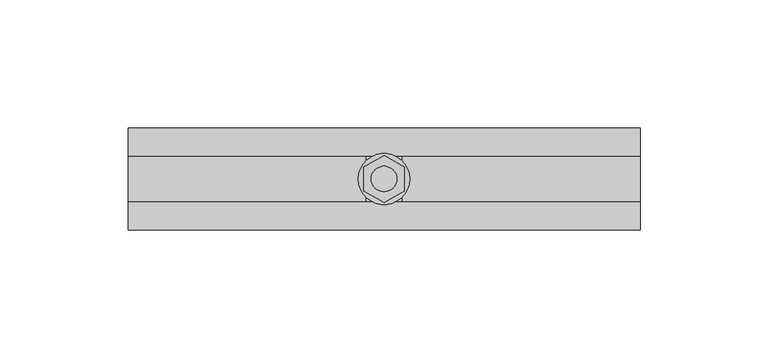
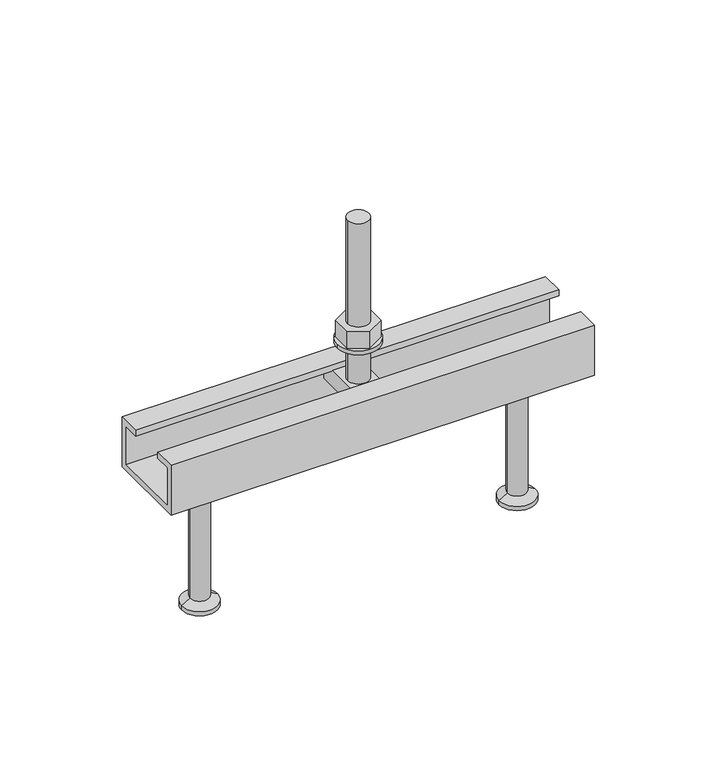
"""IFC4 building model written with IfcOpenShell, lengths in millimetres: fastener geometry, JTA-K JORDAHL® AnchorChannels : JTA-K L=200 mm."""

from ifc_helpers import new_model, si_unit, point, frame, frame_2d, origin, place, context, project, spatial, polyline, circle_curve, trimmed, segment, composite_curve, outline, extrude, source, transform, mapped, element, save
from ifc_brep_helpers import plane_surface, cylinder_surface, revolved_surface, advanced_brep


def fastener_1dbd13a3(model_context):
    return source(origin(), model_context, "Body", "SolidModel", [
        extrude(outline(polyline([(100.0, -9.2376043), (92.0, -4.6188022), (92.0, 4.6188022), (100.0, 9.2376043), (108.0, 4.6188022), (108.0, -4.6188022), (100.0, -9.2376043)]), holes=[composite_curve([segment(trimmed(circle_curve(frame_2d((100.0, 0.0)), 5.0), [point((95.0, 0.0))], [point((105.0, 0.0))], True, "CARTESIAN"), True, "CONTINUOUS"), segment(trimmed(circle_curve(frame_2d((100.0, 0.0)), 5.0), [point((105.0, 0.0))], [point((95.0, 0.0))], True, "CARTESIAN"), True, "CONTINUOUS")], self_intersect=False)]), frame((0.0, 0.0, 17.0), z_axis=(0.0, 0.0, 1.0), x_axis=(1.0, 0.0, 0.0)), (0.0, 0.0, 1.0), 8.4),
        extrude(outline(composite_curve([segment(trimmed(circle_curve(frame_2d((100.0, 0.0)), 10.0), [point((90.0, 0.0))], [point((110.0, 0.0))], False, "CARTESIAN"), True, "CONTINUOUS"), segment(trimmed(circle_curve(frame_2d((100.0, 0.0)), 10.0), [point((110.0, 0.0))], [point((90.0, 0.0))], False, "CARTESIAN"), True, "CONTINUOUS")], self_intersect=False), holes=[composite_curve([segment(trimmed(circle_curve(frame_2d((100.0, 0.0)), 5.25), [point((94.75, 0.0))], [point((105.25, 0.0))], True, "CARTESIAN"), True, "CONTINUOUS"), segment(trimmed(circle_curve(frame_2d((100.0, 0.0)), 5.25), [point((105.25, 0.0))], [point((94.75, 0.0))], True, "CARTESIAN"), True, "CONTINUOUS")], self_intersect=False)]), frame((0.0, 0.0, 15.0), z_axis=(0.0, 0.0, 1.0), x_axis=(1.0, 0.0, 0.0)), (0.0, 0.0, 1.0), 2.0),
        advanced_brep(
        [(107.0, -16.0, -3.0), (107.0, -16.0, -11.0), (107.0, 16.0, -11.0), (107.0, 16.0, -3.0), (93.0, -16.0, -3.0), (93.0, 16.0, -3.0), (93.0, 16.0, -11.0), (93.0, -16.0, -11.0), (105.0, 0.0, -3.0), (95.0, 0.0, -3.0), (95.0, 0.0, 77.0), (105.0, 0.0, 77.0)],
        [
            (0, 1),
            (1, 2),
            (2, 3),
            (3, 0),
            (4, 5),
            (5, 6),
            (6, 7),
            (7, 4),
            (3, 5),
            (4, 0),
            (8, 9, circle_curve(frame((100.0, 0.0, -3.0), z_axis=(0.0, 0.0, -1.0), x_axis=(1.0, 0.0, 0.0)), 5.0)),
            (9, 8, circle_curve(frame((100.0, 0.0, -3.0), z_axis=(0.0, 0.0, -1.0), x_axis=(1.0, 0.0, 0.0)), 5.0)),
            (2, 6),
            (1, 7),
            (10, 11, circle_curve(frame((100.0, 0.0, 77.0), z_axis=(0.0, 0.0, 1.0), x_axis=(1.0, 0.0, 0.0)), 5.0)),
            (11, 10, circle_curve(frame((100.0, 0.0, 77.0), z_axis=(0.0, 0.0, 1.0), x_axis=(1.0, 0.0, 0.0)), 5.0)),
            (11, 8),
            (9, 10),
        ],
        [
            plane_surface(frame((107.0, 16.0, -3.0), z_axis=(1.0, 0.0, 0.0), x_axis=(0.0, 1.0, 0.0))),
            plane_surface(frame((93.0, 16.0, -3.0), z_axis=(-1.0, 0.0, 0.0), x_axis=(0.0, -1.0, 0.0))),
            plane_surface(frame((107.0, -16.0, -3.0), z_axis=(0.0, 0.0, 1.0), x_axis=(-1.0, 0.0, 0.0))),
            plane_surface(frame((107.0, 16.0, -3.0), z_axis=(0.0, 1.0, 0.0), x_axis=(-1.0, 0.0, 0.0))),
            plane_surface(frame((107.0, 16.0, -11.0), z_axis=(0.0, 0.0, -1.0), x_axis=(-1.0, 0.0, 0.0))),
            plane_surface(frame((107.0, -16.0, -11.0), z_axis=(0.0, -1.0, 0.0), x_axis=(-1.0, 0.0, 0.0))),
            plane_surface(frame((105.0, 0.0, 77.0), z_axis=(0.0, 0.0, 1.0), x_axis=(0.0, -1.0, 0.0))),
            cylinder_surface(frame((100.0, 0.0, -3.0), z_axis=(0.0, 0.0, 1.0), x_axis=(1.0, 0.0, 0.0)), 5.0),
        ],
        [
            (0, [[1, 2, 3, 4]]),
            (1, [[5, 6, 7, 8]]),
            (2, [[9, -5, 10, -4], [11, 12]]),
            (3, [[13, -6, -9, -3]]),
            (4, [[14, -7, -13, -2]]),
            (5, [[-10, -8, -14, -1]]),
            (6, [[15, 16]]),
            (7, [[17, -12, 18, -16]]),
            (7, [[-18, -11, -17, -15]]),
        ],
    ),
        advanced_brep(
        [(175.0, 0.0, -25.0), (161.5, 0.0, -25.0), (188.5, 0.0, -25.0), (166.5, 0.0, -90.0), (175.0, 0.0, -90.0), (183.5, 0.0, -90.0), (166.5, 0.0, -88.0), (183.5, 0.0, -88.0), (170.5, 0.0, -85.6905989), (179.5, 0.0, -85.6905989), (170.5, 0.0, -27.5), (179.5, 0.0, -27.5)],
        [
            (0, 1),
            (1, 2, circle_curve(frame((175.0, 0.0, -25.0), z_axis=(0.0, 0.0, 1.0), x_axis=(1.0, 0.0, 0.0)), 13.5)),
            (2, 0),
            (2, 1, circle_curve(frame((175.0, 0.0, -25.0), z_axis=(0.0, 0.0, 1.0), x_axis=(1.0, 0.0, 0.0)), 13.5)),
            (3, 4),
            (4, 5),
            (5, 3, circle_curve(frame((175.0, 0.0, -90.0), z_axis=(0.0, 0.0, -1.0), x_axis=(1.0, 0.0, 0.0)), 8.5)),
            (3, 5, circle_curve(frame((175.0, 0.0, -90.0), z_axis=(0.0, 0.0, -1.0), x_axis=(1.0, 0.0, 0.0)), 8.5)),
            (6, 3),
            (5, 7),
            (7, 6, circle_curve(frame((175.0, 0.0, -88.0), z_axis=(0.0, 0.0, -1.0), x_axis=(1.0, 0.0, 0.0)), 8.5)),
            (6, 7, circle_curve(frame((175.0, 0.0, -88.0), z_axis=(0.0, 0.0, -1.0), x_axis=(1.0, 0.0, 0.0)), 8.5)),
            (8, 6),
            (7, 9),
            (9, 8, circle_curve(frame((175.0, 0.0, -85.6905989), z_axis=(0.0, 0.0, -1.0), x_axis=(1.0, 0.0, 0.0)), 4.5)),
            (8, 9, circle_curve(frame((175.0, 0.0, -85.6905989), z_axis=(0.0, 0.0, -1.0), x_axis=(1.0, 0.0, 0.0)), 4.5)),
            (10, 8),
            (9, 11),
            (11, 10, circle_curve(frame((175.0, 0.0, -27.5), z_axis=(0.0, 0.0, -1.0), x_axis=(1.0, 0.0, 0.0)), 4.5)),
            (10, 11, circle_curve(frame((175.0, 0.0, -27.5), z_axis=(0.0, 0.0, -1.0), x_axis=(1.0, 0.0, 0.0)), 4.5)),
            (1, 10),
            (11, 2),
        ],
        [
            plane_surface(frame((175.0, 0.0, -25.0), z_axis=(0.0, 0.0, 1.0), x_axis=(1.0, 0.0, 0.0))),
            plane_surface(frame((175.0, 0.0, -90.0), z_axis=(0.0, 0.0, -1.0), x_axis=(1.0, 0.0, 0.0))),
            cylinder_surface(frame((175.0, 0.0, 2279.3150031), z_axis=(0.0, 0.0, 1.0), x_axis=(1.0, 0.0, 0.0)), 8.5),
            revolved_surface(polyline([(183.5, 0.0, -88.0), (179.5, 0.0, -85.6905989)]), (175.0, 0.0, 2279.3150031), (0.0, 0.0, 1.0)),
            cylinder_surface(frame((175.0, 0.0, 2279.3150031), z_axis=(0.0, 0.0, 1.0), x_axis=(1.0, 0.0, 0.0)), 4.5),
            revolved_surface(polyline([(179.5, 0.0, -27.5), (188.5, 0.0, -25.0)]), (175.0, 0.0, 2279.3150031), (0.0, 0.0, 1.0)),
        ],
        [
            (0, [[1, 2, 3]]),
            (0, [[-3, 4, -1]]),
            (1, [[5, 6, 7]]),
            (1, [[-6, -5, 8]]),
            (2, [[9, -7, 10, 11]]),
            (2, [[-10, -8, -9, 12]]),
            (3, [[13, -11, 14, 15]]),
            (3, [[-14, -12, -13, 16]]),
            (4, [[17, -15, 18, 19]]),
            (4, [[-18, -16, -17, 20]]),
            (5, [[21, -19, 22, -2]]),
            (5, [[-22, -20, -21, -4]]),
        ],
    ),
        advanced_brep(
        [(25.0, 0.0, -25.0), (11.5, 0.0, -25.0), (38.5, 0.0, -25.0), (16.5, 0.0, -90.0), (25.0, 0.0, -90.0), (33.5, 0.0, -90.0), (16.5, 0.0, -88.0), (33.5, 0.0, -88.0), (20.5, 0.0, -85.6905989), (29.5, 0.0, -85.6905989), (20.5, 0.0, -27.5), (29.5, 0.0, -27.5)],
        [
            (0, 1),
            (1, 2, circle_curve(frame((25.0, 0.0, -25.0), z_axis=(0.0, 0.0, 1.0), x_axis=(1.0, 0.0, 0.0)), 13.5)),
            (2, 0),
            (2, 1, circle_curve(frame((25.0, 0.0, -25.0), z_axis=(0.0, 0.0, 1.0), x_axis=(1.0, 0.0, 0.0)), 13.5)),
            (3, 4),
            (4, 5),
            (5, 3, circle_curve(frame((25.0, 0.0, -90.0), z_axis=(0.0, 0.0, -1.0), x_axis=(1.0, 0.0, 0.0)), 8.5)),
            (3, 5, circle_curve(frame((25.0, 0.0, -90.0), z_axis=(0.0, 0.0, -1.0), x_axis=(1.0, 0.0, 0.0)), 8.5)),
            (6, 3),
            (5, 7),
            (7, 6, circle_curve(frame((25.0, 0.0, -88.0), z_axis=(0.0, 0.0, -1.0), x_axis=(1.0, 0.0, 0.0)), 8.5)),
            (6, 7, circle_curve(frame((25.0, 0.0, -88.0), z_axis=(0.0, 0.0, -1.0), x_axis=(1.0, 0.0, 0.0)), 8.5)),
            (8, 6),
            (7, 9),
            (9, 8, circle_curve(frame((25.0, 0.0, -85.6905989), z_axis=(0.0, 0.0, -1.0), x_axis=(1.0, 0.0, 0.0)), 4.5)),
            (8, 9, circle_curve(frame((25.0, 0.0, -85.6905989), z_axis=(0.0, 0.0, -1.0), x_axis=(1.0, 0.0, 0.0)), 4.5)),
            (10, 8),
            (9, 11),
            (11, 10, circle_curve(frame((25.0, 0.0, -27.5), z_axis=(0.0, 0.0, -1.0), x_axis=(1.0, 0.0, 0.0)), 4.5)),
            (10, 11, circle_curve(frame((25.0, 0.0, -27.5), z_axis=(0.0, 0.0, -1.0), x_axis=(1.0, 0.0, 0.0)), 4.5)),
            (1, 10),
            (11, 2),
        ],
        [
            plane_surface(frame((25.0, 0.0, -25.0), z_axis=(0.0, 0.0, 1.0), x_axis=(1.0, 0.0, 0.0))),
            plane_surface(frame((25.0, 0.0, -90.0), z_axis=(0.0, 0.0, -1.0), x_axis=(1.0, 0.0, 0.0))),
            cylinder_surface(frame((25.0, 0.0, 2279.3150031), z_axis=(0.0, 0.0, 1.0), x_axis=(1.0, 0.0, 0.0)), 8.5),
            revolved_surface(polyline([(33.5, 0.0, -88.0), (29.5, 0.0, -85.6905989)]), (25.0, 0.0, 2279.3150031), (0.0, 0.0, 1.0)),
            cylinder_surface(frame((25.0, 0.0, 2279.3150031), z_axis=(0.0, 0.0, 1.0), x_axis=(1.0, 0.0, 0.0)), 4.5),
            revolved_surface(polyline([(29.5, 0.0, -27.5), (38.5, 0.0, -25.0)]), (25.0, 0.0, 2279.3150031), (0.0, 0.0, 1.0)),
        ],
        [
            (0, [[1, 2, 3]]),
            (0, [[-3, 4, -1]]),
            (1, [[5, 6, 7]]),
            (1, [[-6, -5, 8]]),
            (2, [[9, -7, 10, 11]]),
            (2, [[-10, -8, -9, 12]]),
            (3, [[13, -11, 14, 15]]),
            (3, [[-14, -12, -13, 16]]),
            (4, [[17, -15, 18, 19]]),
            (4, [[-18, -16, -17, 20]]),
            (5, [[21, -19, 22, -2]]),
            (5, [[-22, -20, -21, -4]]),
        ],
    ),
        extrude(outline(polyline([(-20.0, 0.0), (-9.0, 0.0), (-9.0, -3.0), (-17.0, -3.0), (-17.0, -22.0), (17.0, -22.0), (17.0, -3.0), (9.0, -3.0), (9.0, 0.0), (20.0, 0.0), (20.0, -25.0), (-20.0, -25.0), (-20.0, 0.0)])), frame((0.0, 0.0, 0.0), z_axis=(1.0, 0.0, 0.0), x_axis=(0.0, 1.0, 0.0)), (0.0, 0.0, 1.0), 200.0),
    ])


if __name__ == "__main__":
    model = new_model("IFC4")
    model_context = context("Model", 3, world=origin())
    ifc_project = project(units=[si_unit("LENGTHUNIT", "METRE", prefix="MILLI")], contexts=[model_context])
    site = spatial("IfcSite", under=ifc_project)
    building = spatial("IfcBuilding", under=site)
    placement = place(None, origin())
    fastener_shape = fastener_1dbd13a3(model_context)
    element("IfcFastener", 1, ObjectType="JTA-K JORDAHL® AnchorChannels : JTA-K L=200 mm", at=placement, inside=building, context=model_context, shape_type="MappedRepresentation", body=[
        mapped(fastener_shape, transform((0.0, 0.0, 0.0), x_axis=(1.0, 0.0, 0.0), y_axis=(0.0, 1.0, 0.0), z_axis=(0.0, 0.0, 1.0))),
    ])
    save(model, "model.ifc")
